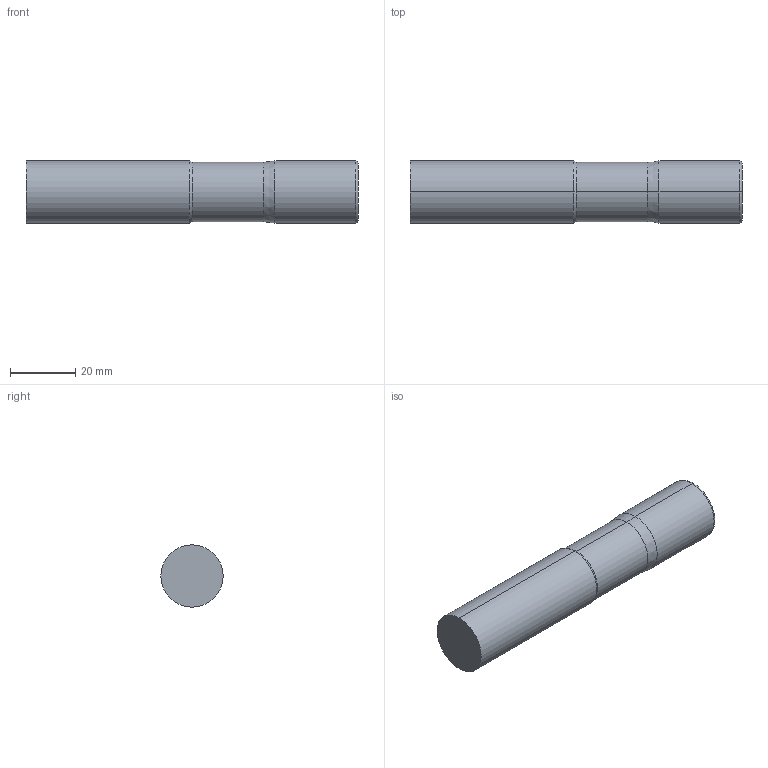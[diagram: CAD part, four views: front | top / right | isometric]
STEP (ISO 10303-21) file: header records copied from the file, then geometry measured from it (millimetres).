
FILE_DESCRIPTION (( 'STEP AP214' ), '1' );
FILE_NAME ('SSIRN70750-030.STEP', '2025-05-30T14:28:54', ( '' ), ( '' ), 'SwSTEP 2.0', 'SolidWorks 2023', '' );
FILE_SCHEMA (( 'AUTOMOTIVE_DESIGN' ));
Length unit declared in the file: inch
Products named in the file (3): SSI7 Cut Only_SSIRN70750-030; SSIRN70750-030; SSI7 Shank Only_SSIRN70750-030
Assembly tree (2 placements, depth 2):
  SSIRN70750-030
    SSI7 Cut Only_SSIRN70750-030
    SSI7 Shank Only_SSIRN70750-030
Bounding box: 101.6 x 19.05 x 19.05 mm (x, y, z)
Volume: 28327.7 mm3; surface area: 7142.3 mm2
Topology: 2 solids, 2 shells, 16 faces, 28 edges, 16 vertices
Faces by surface type: cylinder 6, plane 4, cone 4, torus 2
Entity records: 484 total; most frequent: DIRECTION 88, CARTESIAN_POINT 65, ORIENTED_EDGE 56, AXIS2_PLACEMENT_3D 39, EDGE_CURVE 28, CIRCLE 18, VERTEX_POINT 16, ADVANCED_FACE 16
